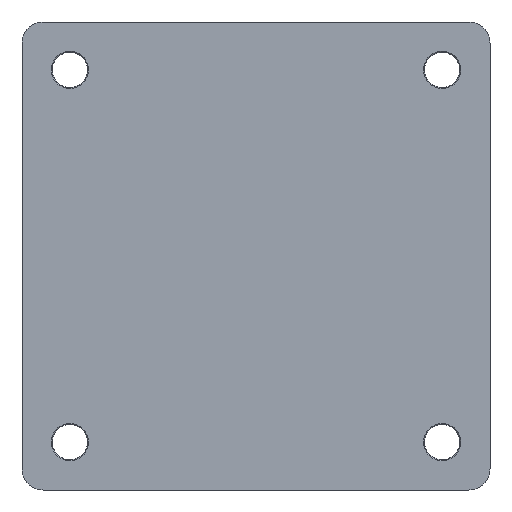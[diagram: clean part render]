
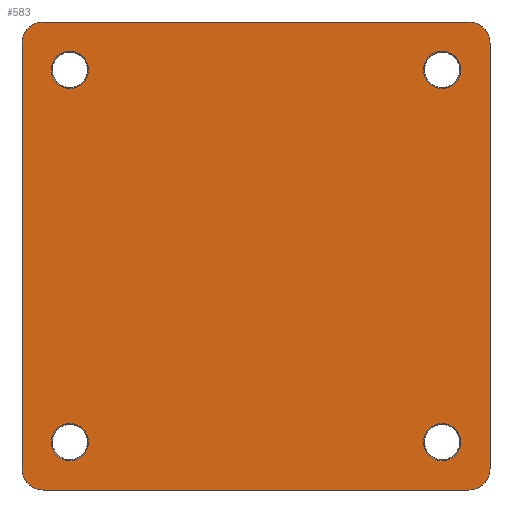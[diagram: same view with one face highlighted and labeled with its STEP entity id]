
A CAD part, left-side view. The second image highlights one B-rep face of the part: STEP entity #583.
In plain terms, the highlighted planar face has unit normal (-1, 0, 0).
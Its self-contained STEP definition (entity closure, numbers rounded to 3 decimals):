
#1 = DIRECTION ( 'NONE',  ( 0., 0., -1. ) ) ;
#30 = CIRCLE ( 'NONE', #490, 10. ) ;
#34 = CARTESIAN_POINT ( 'NONE',  ( -23., -100., 110. ) ) ;
#39 = FACE_BOUND ( 'NONE', #1853, .T. ) ;
#41 = CARTESIAN_POINT ( 'NONE',  ( -23., -87.5, 96.25 ) ) ;
#51 = CIRCLE ( 'NONE', #2073, 8.75 ) ;
#55 = CARTESIAN_POINT ( 'NONE',  ( -23., 100., 110. ) ) ;
#58 = VECTOR ( 'NONE', #338, 1000. ) ;
#85 = LINE ( 'NONE', #1126, #873 ) ;
#97 = AXIS2_PLACEMENT_3D ( 'NONE', #845, #1688, #1843 ) ;
#137 = PLANE ( 'NONE',  #1681 ) ;
#140 = DIRECTION ( 'NONE',  ( 1., 0., 0. ) ) ;
#155 = CIRCLE ( 'NONE', #1917, 8.75 ) ;
#164 = CARTESIAN_POINT ( 'NONE',  ( -23., -87.5, -78.75 ) ) ;
#196 = DIRECTION ( 'NONE',  ( 0., 0., 1. ) ) ;
#199 = EDGE_LOOP ( 'NONE', ( #1586, #418 ) ) ;
#219 = CARTESIAN_POINT ( 'NONE',  ( -23., 87.5, 96.25 ) ) ;
#237 = EDGE_CURVE ( 'NONE', #1486, #291, #1593, .T. ) ;
#239 = CARTESIAN_POINT ( 'NONE',  ( -23., 87.5, 78.75 ) ) ;
#240 = DIRECTION ( 'NONE',  ( 0., 1., 0. ) ) ;
#267 = ORIENTED_EDGE ( 'NONE', *, *, #652, .F. ) ;
#275 = AXIS2_PLACEMENT_3D ( 'NONE', #1202, #1189, #196 ) ;
#282 = EDGE_CURVE ( 'NONE', #291, #1551, #1446, .T. ) ;
#291 = VERTEX_POINT ( 'NONE', #1238 ) ;
#317 = DIRECTION ( 'NONE',  ( 1., 0., 0. ) ) ;
#330 = AXIS2_PLACEMENT_3D ( 'NONE', #1621, #140, #816 ) ;
#338 = DIRECTION ( 'NONE',  ( 0., -1., 0. ) ) ;
#344 = DIRECTION ( 'NONE',  ( -1., 0., 0. ) ) ;
#356 = CARTESIAN_POINT ( 'NONE',  ( -23., -87.5, 78.75 ) ) ;
#418 = ORIENTED_EDGE ( 'NONE', *, *, #975, .F. ) ;
#423 = CIRCLE ( 'NONE', #827, 8.75 ) ;
#429 = ORIENTED_EDGE ( 'NONE', *, *, #1178, .F. ) ;
#468 = DIRECTION ( 'NONE',  ( -1., 0., 0. ) ) ;
#470 = DIRECTION ( 'NONE',  ( 1., 0., 0. ) ) ;
#490 = AXIS2_PLACEMENT_3D ( 'NONE', #1579, #470, #1600 ) ;
#514 = EDGE_CURVE ( 'NONE', #1959, #1486, #85, .T. ) ;
#547 = DIRECTION ( 'NONE',  ( 0., 0., 1. ) ) ;
#552 = ORIENTED_EDGE ( 'NONE', *, *, #1709, .F. ) ;
#564 = FACE_BOUND ( 'NONE', #1337, .T. ) ;
#583 = ADVANCED_FACE ( 'NONE', ( #2079, #803, #564, #39, #1324 ), #137, .F. ) ;
#633 = VERTEX_POINT ( 'NONE', #1952 ) ;
#634 = DIRECTION ( 'NONE',  ( 0., 0., 1. ) ) ;
#646 = VERTEX_POINT ( 'NONE', #164 ) ;
#649 = DIRECTION ( 'NONE',  ( 0., 0., 1. ) ) ;
#652 = EDGE_CURVE ( 'NONE', #1683, #1239, #1252, .T. ) ;
#656 = DIRECTION ( 'NONE',  ( 0., 0., -1. ) ) ;
#674 = CARTESIAN_POINT ( 'NONE',  ( -23., 110., -100. ) ) ;
#678 = CARTESIAN_POINT ( 'NONE',  ( -23., 100., -110. ) ) ;
#688 = ORIENTED_EDGE ( 'NONE', *, *, #237, .F. ) ;
#697 = EDGE_CURVE ( 'NONE', #1588, #847, #1613, .T. ) ;
#703 = AXIS2_PLACEMENT_3D ( 'NONE', #1790, #1132, #1 ) ;
#735 = VERTEX_POINT ( 'NONE', #356 ) ;
#753 = DIRECTION ( 'NONE',  ( 1., 0., 0. ) ) ;
#791 = VERTEX_POINT ( 'NONE', #41 ) ;
#803 = FACE_BOUND ( 'NONE', #199, .T. ) ;
#805 = CARTESIAN_POINT ( 'NONE',  ( -23., -87.5, -96.25 ) ) ;
#816 = DIRECTION ( 'NONE',  ( 0., 0., -1. ) ) ;
#827 = AXIS2_PLACEMENT_3D ( 'NONE', #2108, #1310, #649 ) ;
#835 = AXIS2_PLACEMENT_3D ( 'NONE', #1264, #468, #634 ) ;
#836 = CARTESIAN_POINT ( 'NONE',  ( -23., 87.5, 87.5 ) ) ;
#845 = CARTESIAN_POINT ( 'NONE',  ( -23., 87.5, -87.5 ) ) ;
#847 = VERTEX_POINT ( 'NONE', #1196 ) ;
#862 = DIRECTION ( 'NONE',  ( 0., 0., 1. ) ) ;
#865 = ORIENTED_EDGE ( 'NONE', *, *, #1695, .F. ) ;
#873 = VECTOR ( 'NONE', #1290, 1000. ) ;
#909 = ORIENTED_EDGE ( 'NONE', *, *, #2065, .F. ) ;
#911 = VERTEX_POINT ( 'NONE', #931 ) ;
#913 = CARTESIAN_POINT ( 'NONE',  ( -23., -100., -100. ) ) ;
#931 = CARTESIAN_POINT ( 'NONE',  ( -23., 87.5, -96.25 ) ) ;
#937 = CIRCLE ( 'NONE', #1220, 8.75 ) ;
#953 = ORIENTED_EDGE ( 'NONE', *, *, #1906, .F. ) ;
#975 = EDGE_CURVE ( 'NONE', #1323, #1147, #2105, .T. ) ;
#983 = CARTESIAN_POINT ( 'NONE',  ( -23., -100., 100. ) ) ;
#1047 = ORIENTED_EDGE ( 'NONE', *, *, #282, .F. ) ;
#1085 = ORIENTED_EDGE ( 'NONE', *, *, #697, .F. ) ;
#1114 = AXIS2_PLACEMENT_3D ( 'NONE', #1513, #1522, #547 ) ;
#1126 = CARTESIAN_POINT ( 'NONE',  ( -23., -110., 100. ) ) ;
#1132 = DIRECTION ( 'NONE',  ( 1., 0., 0. ) ) ;
#1147 = VERTEX_POINT ( 'NONE', #219 ) ;
#1178 = EDGE_CURVE ( 'NONE', #633, #911, #1914, .T. ) ;
#1186 = EDGE_CURVE ( 'NONE', #791, #735, #1439, .T. ) ;
#1189 = DIRECTION ( 'NONE',  ( -1., 0., 0. ) ) ;
#1196 = CARTESIAN_POINT ( 'NONE',  ( -23., 110., 100. ) ) ;
#1202 = CARTESIAN_POINT ( 'NONE',  ( -23., -87.5, 87.5 ) ) ;
#1213 = CIRCLE ( 'NONE', #703, 10. ) ;
#1220 = AXIS2_PLACEMENT_3D ( 'NONE', #836, #344, #1477 ) ;
#1238 = CARTESIAN_POINT ( 'NONE',  ( -23., -100., -110. ) ) ;
#1239 = VERTEX_POINT ( 'NONE', #34 ) ;
#1240 = ORIENTED_EDGE ( 'NONE', *, *, #2019, .F. ) ;
#1243 = DIRECTION ( 'NONE',  ( -1., 0., 0. ) ) ;
#1252 = LINE ( 'NONE', #1645, #58 ) ;
#1259 = DIRECTION ( 'NONE',  ( 0., 0., 1. ) ) ;
#1264 = CARTESIAN_POINT ( 'NONE',  ( -23., 87.5, 87.5 ) ) ;
#1265 = ORIENTED_EDGE ( 'NONE', *, *, #1186, .F. ) ;
#1268 = CARTESIAN_POINT ( 'NONE',  ( -23., -110., -100. ) ) ;
#1290 = DIRECTION ( 'NONE',  ( 0., 0., -1. ) ) ;
#1310 = DIRECTION ( 'NONE',  ( -1., 0., 0. ) ) ;
#1315 = AXIS2_PLACEMENT_3D ( 'NONE', #913, #753, #1371 ) ;
#1323 = VERTEX_POINT ( 'NONE', #239 ) ;
#1324 = FACE_OUTER_BOUND ( 'NONE', #1723, .T. ) ;
#1337 = EDGE_LOOP ( 'NONE', ( #1240, #1622 ) ) ;
#1338 = CIRCLE ( 'NONE', #97, 8.75 ) ;
#1371 = DIRECTION ( 'NONE',  ( 0., 0., -1. ) ) ;
#1439 = CIRCLE ( 'NONE', #275, 8.75 ) ;
#1446 = LINE ( 'NONE', #1549, #1974 ) ;
#1477 = DIRECTION ( 'NONE',  ( 0., 0., 1. ) ) ;
#1486 = VERTEX_POINT ( 'NONE', #1268 ) ;
#1494 = CARTESIAN_POINT ( 'NONE',  ( -23., 110., -100. ) ) ;
#1501 = ORIENTED_EDGE ( 'NONE', *, *, #514, .F. ) ;
#1513 = CARTESIAN_POINT ( 'NONE',  ( -23., 87.5, -87.5 ) ) ;
#1522 = DIRECTION ( 'NONE',  ( -1., 0., 0. ) ) ;
#1529 = DIRECTION ( 'NONE',  ( 0., 0., 1. ) ) ;
#1549 = CARTESIAN_POINT ( 'NONE',  ( -23., -100., -110. ) ) ;
#1551 = VERTEX_POINT ( 'NONE', #678 ) ;
#1574 = CARTESIAN_POINT ( 'NONE',  ( -23., -110., 100. ) ) ;
#1579 = CARTESIAN_POINT ( 'NONE',  ( -23., 100., 100. ) ) ;
#1586 = ORIENTED_EDGE ( 'NONE', *, *, #2083, .F. ) ;
#1588 = VERTEX_POINT ( 'NONE', #674 ) ;
#1593 = CIRCLE ( 'NONE', #1315, 10. ) ;
#1598 = EDGE_CURVE ( 'NONE', #1551, #1588, #1213, .T. ) ;
#1600 = DIRECTION ( 'NONE',  ( 0., 0., -1. ) ) ;
#1613 = LINE ( 'NONE', #1494, #1748 ) ;
#1621 = CARTESIAN_POINT ( 'NONE',  ( -23., -100., 100. ) ) ;
#1622 = ORIENTED_EDGE ( 'NONE', *, *, #1754, .F. ) ;
#1636 = CARTESIAN_POINT ( 'NONE',  ( -23., -87.5, 87.5 ) ) ;
#1645 = CARTESIAN_POINT ( 'NONE',  ( -23., 100., 110. ) ) ;
#1681 = AXIS2_PLACEMENT_3D ( 'NONE', #983, #317, #656 ) ;
#1683 = VERTEX_POINT ( 'NONE', #55 ) ;
#1688 = DIRECTION ( 'NONE',  ( -1., 0., 0. ) ) ;
#1695 = EDGE_CURVE ( 'NONE', #911, #633, #1338, .T. ) ;
#1709 = EDGE_CURVE ( 'NONE', #735, #791, #155, .T. ) ;
#1710 = CARTESIAN_POINT ( 'NONE',  ( -23., -87.5, -87.5 ) ) ;
#1723 = EDGE_LOOP ( 'NONE', ( #909, #267, #953, #1085, #2064, #1047, #688, #1501 ) ) ;
#1748 = VECTOR ( 'NONE', #862, 1000. ) ;
#1754 = EDGE_CURVE ( 'NONE', #1878, #646, #51, .T. ) ;
#1785 = CIRCLE ( 'NONE', #330, 10. ) ;
#1790 = CARTESIAN_POINT ( 'NONE',  ( -23., 100., -100. ) ) ;
#1804 = DIRECTION ( 'NONE',  ( -1., 0., 0. ) ) ;
#1843 = DIRECTION ( 'NONE',  ( 0., 0., 1. ) ) ;
#1853 = EDGE_LOOP ( 'NONE', ( #1265, #552 ) ) ;
#1878 = VERTEX_POINT ( 'NONE', #805 ) ;
#1906 = EDGE_CURVE ( 'NONE', #847, #1683, #30, .T. ) ;
#1914 = CIRCLE ( 'NONE', #1114, 8.75 ) ;
#1917 = AXIS2_PLACEMENT_3D ( 'NONE', #1636, #1804, #1529 ) ;
#1952 = CARTESIAN_POINT ( 'NONE',  ( -23., 87.5, -78.75 ) ) ;
#1959 = VERTEX_POINT ( 'NONE', #1574 ) ;
#1974 = VECTOR ( 'NONE', #240, 1000. ) ;
#2019 = EDGE_CURVE ( 'NONE', #646, #1878, #423, .T. ) ;
#2040 = EDGE_LOOP ( 'NONE', ( #429, #865 ) ) ;
#2064 = ORIENTED_EDGE ( 'NONE', *, *, #1598, .F. ) ;
#2065 = EDGE_CURVE ( 'NONE', #1239, #1959, #1785, .T. ) ;
#2073 = AXIS2_PLACEMENT_3D ( 'NONE', #1710, #1243, #1259 ) ;
#2079 = FACE_BOUND ( 'NONE', #2040, .T. ) ;
#2083 = EDGE_CURVE ( 'NONE', #1147, #1323, #937, .T. ) ;
#2105 = CIRCLE ( 'NONE', #835, 8.75 ) ;
#2108 = CARTESIAN_POINT ( 'NONE',  ( -23., -87.5, -87.5 ) ) ;
